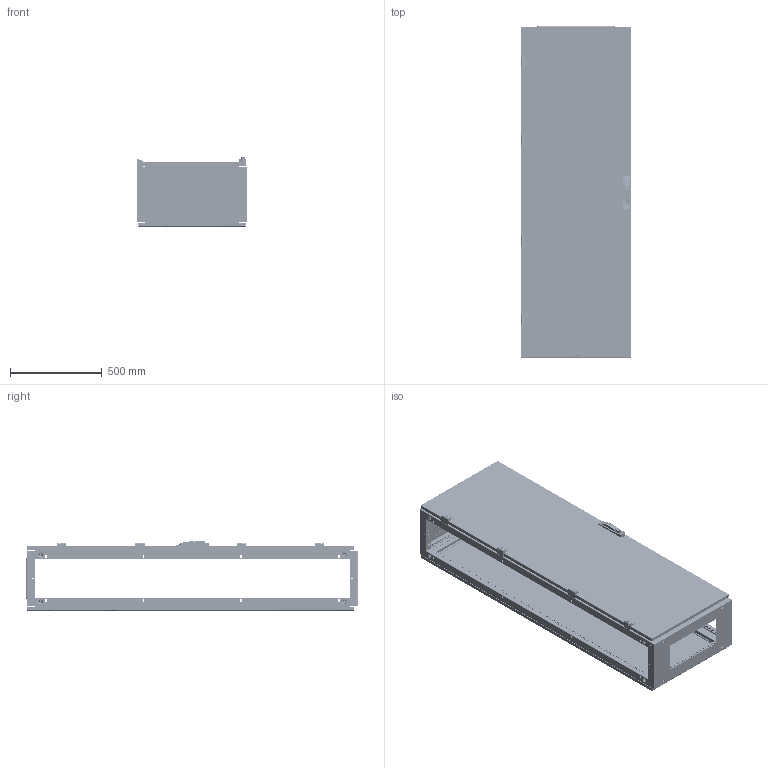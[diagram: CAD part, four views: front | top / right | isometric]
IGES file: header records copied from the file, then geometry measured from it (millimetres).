
Start section: SolidWorks IGES file using analytic representation for surfaces
Global section: file name: U:\14_RD\05_Technical_office\04_Office\Hrdinova\3D modely - IGES\Distri\QA180603.IGS; native system: SolidWorks 2011; preprocessor: SolidWorks 2011; author: adhrja3; date: 170609.145611; units: millimetre
Bounding box: 600 x 1804.5 x 376 mm (x, y, z)
Surface area: 9230561.4 mm2 (no closed solid volume)
Topology: 0 solids, 0 shells, 5940 faces, 98961 edges, 98793 vertices
Faces by surface type: bspline 3348, revolution 2592
